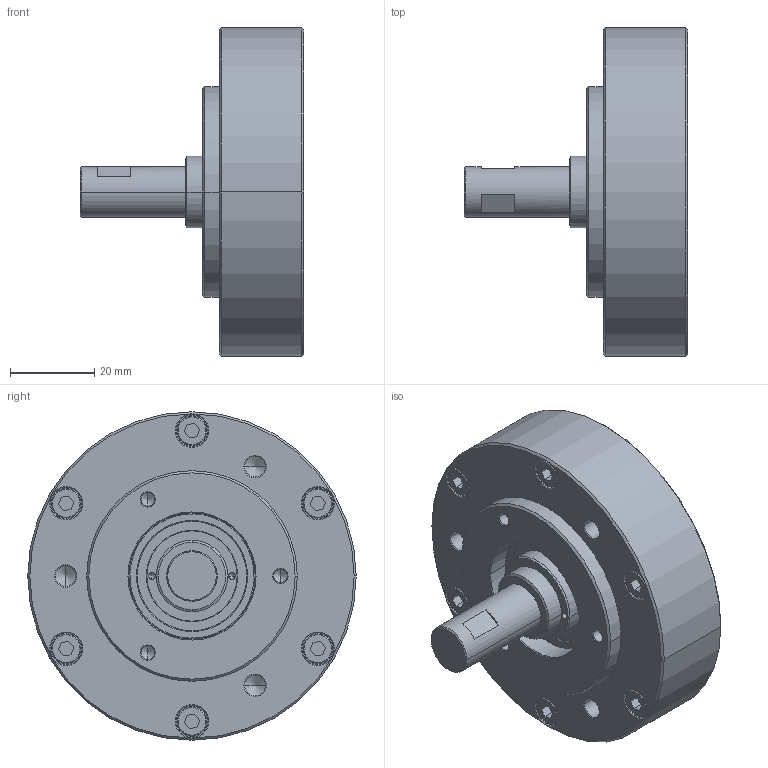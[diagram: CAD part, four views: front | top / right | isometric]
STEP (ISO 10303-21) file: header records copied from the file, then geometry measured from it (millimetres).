
FILE_DESCRIPTION (( 'STEP AP203' ), '1' );
FILE_NAME ('OCA-W120-C7Y-N.STEP', '2013-06-10T12:09:59', ( '' ), ( '' ), 'SwSTEP 2.0', 'SolidWorks 2006104', '' );
FILE_SCHEMA (( 'CONFIG_CONTROL_DESIGN' ));
Length unit declared in the file: millimetre
Products named in the file (1): OCA-W120-C7Y-N
Bounding box: 53 x 78 x 78 mm (x, y, z)
Volume: 103926.7 mm3; surface area: 19124.1 mm2
Topology: 1 solids, 1 shells, 207 faces, 499 edges, 312 vertices
Faces by surface type: cone 84, plane 69, cylinder 52, bspline 2
Entity records: 6064 total; most frequent: DIRECTION 1121, CARTESIAN_POINT 1039, ORIENTED_EDGE 966, EDGE_CURVE 483, AXIS2_PLACEMENT_3D 434, VERTEX_POINT 312, VECTOR 253, LINE 253
